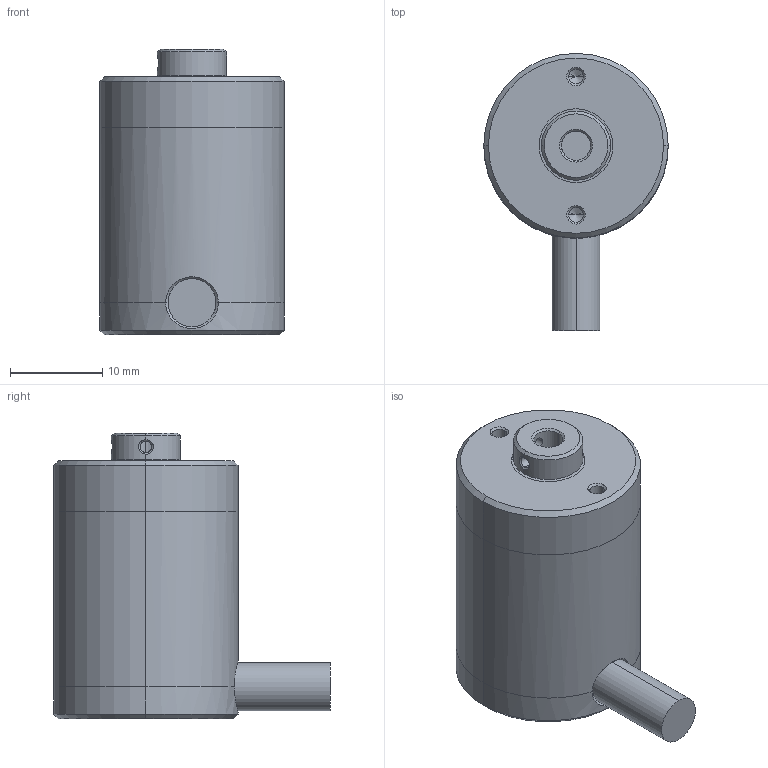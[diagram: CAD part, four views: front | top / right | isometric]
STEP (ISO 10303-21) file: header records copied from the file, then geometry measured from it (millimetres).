
FILE_DESCRIPTION (( 'STEP AP203' ), '1' );
FILE_NAME ('ËÈÐ-220À (Äèàìåòð îòâåðñòèÿ 3,17 ìì).STEP', '2014-07-21T09:52:29', ( '' ), ( '' ), 'SwSTEP 2.0', 'SolidWorks 2013', '' );
FILE_SCHEMA (( 'CONFIG_CONTROL_DESIGN' ));
Length unit declared in the file: millimetre
Products named in the file (1): ËÈÐ-220À (Äèàìåòð îòâåðñòèÿ 3,17 ìì)
Bounding box: 20 x 30 x 31 mm (x, y, z)
Volume: 9113.7 mm3; surface area: 6430.6 mm2
Topology: 5 solids, 5 shells, 91 faces, 202 edges, 125 vertices
Faces by surface type: cylinder 41, plane 28, cone 16, bspline 6
Entity records: 5750 total; most frequent: CARTESIAN_POINT 3662, DIRECTION 434, ORIENTED_EDGE 396, EDGE_CURVE 198, AXIS2_PLACEMENT_3D 178, VERTEX_POINT 125, EDGE_LOOP 105, CIRCLE 92
